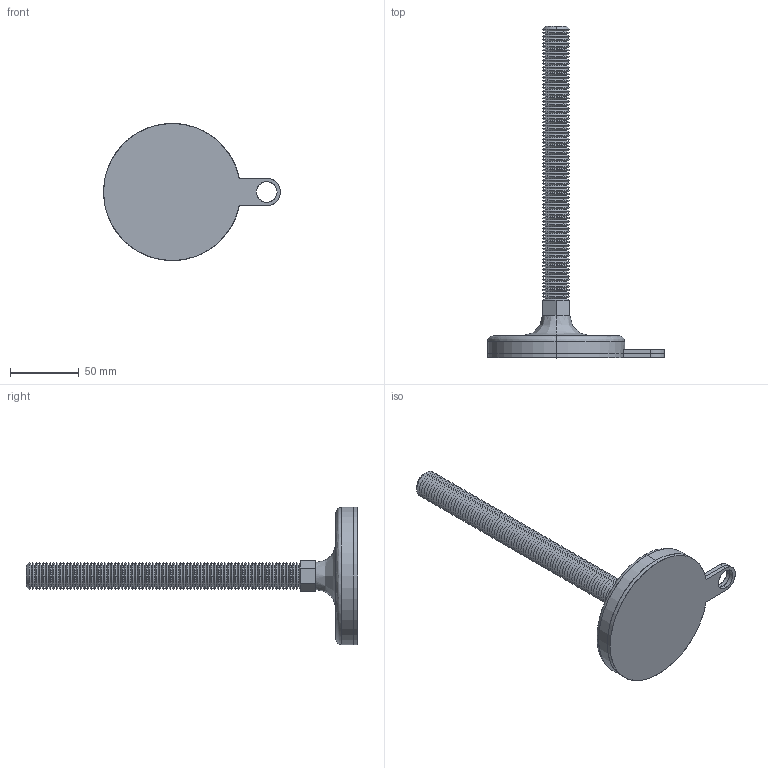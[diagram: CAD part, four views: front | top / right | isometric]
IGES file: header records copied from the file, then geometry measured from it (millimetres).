
Start section: SolidWorks IGES file using analytic representation for surfaces
Global section: file name: C:\Users\liam_\OneDrive\Documents\WORK\Work for WixRoyd\Job Files\J-00026 - Matt Davis CAD - 20191124\04. CAD Drawings\Wixroyd20191124\34704_v2\34704_v2_20191128_IGES\34704.W2007.igs; native system: SolidWorks 2017; preprocessor: SolidWorks 2017; author: liam_; date: 191128.202829; units: millimetre
Bounding box: 129 x 242 x 100 mm (x, y, z)
Surface area: 61608.3 mm2 (no closed solid volume)
Topology: 0 solids, 0 shells, 361 faces, 2076 edges, 2076 vertices
Faces by surface type: revolution 329, bspline 32
